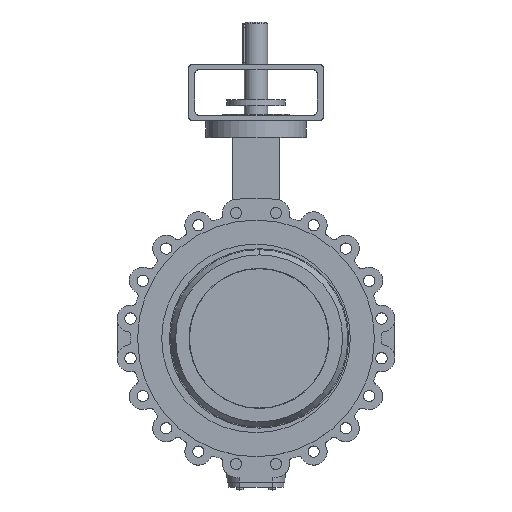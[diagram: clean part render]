
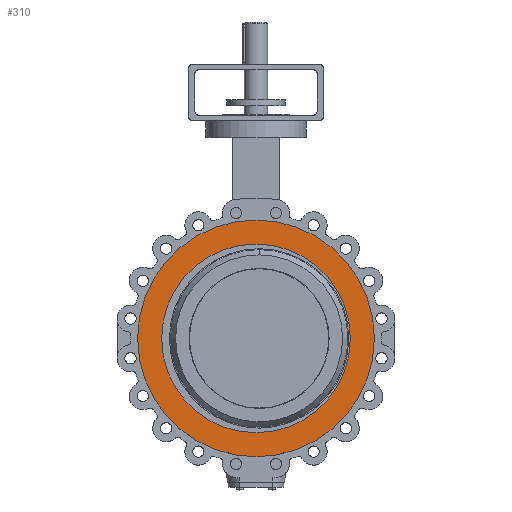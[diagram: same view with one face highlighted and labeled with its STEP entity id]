
A CAD part, top view. The second image highlights one B-rep face of the part: STEP entity #310.
In plain terms, the highlighted planar face has unit normal (0, 0, 1).
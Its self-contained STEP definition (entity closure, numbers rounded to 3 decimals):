
#310 = ADVANCED_FACE( '', ( #921, #922 ), #923, .T. );
#921 = FACE_BOUND( '', #1673, .T. );
#922 = FACE_OUTER_BOUND( '', #1674, .T. );
#923 = PLANE( '', #1675 );
#1673 = EDGE_LOOP( '', ( #3739, #3740, #3741 ) );
#1674 = EDGE_LOOP( '', ( #3742, #3743 ) );
#1675 = AXIS2_PLACEMENT_3D( '', #3744, #3745, #3746 );
#3739 = ORIENTED_EDGE( '', *, *, #4714, .F. );
#3740 = ORIENTED_EDGE( '', *, *, #4713, .F. );
#3741 = ORIENTED_EDGE( '', *, *, #5336, .F. );
#3742 = ORIENTED_EDGE( '', *, *, #4720, .T. );
#3743 = ORIENTED_EDGE( '', *, *, #5334, .T. );
#3744 = CARTESIAN_POINT( '', ( 0., 276.25, 83.5 ) );
#3745 = DIRECTION( '', ( 0., 0., 1. ) );
#3746 = DIRECTION( '', ( 0., 1., 0. ) );
#4713 = EDGE_CURVE( '', #5614, #5617, #5618, .T. );
#4714 = EDGE_CURVE( '', #5617, #5619, #5620, .T. );
#4720 = EDGE_CURVE( '', #5625, #5629, #5631, .T. );
#5334 = EDGE_CURVE( '', #5629, #5625, #6655, .T. );
#5336 = EDGE_CURVE( '', #5619, #5614, #6657, .T. );
#5614 = VERTEX_POINT( '', #7118 );
#5617 = VERTEX_POINT( '', #7122 );
#5618 = CIRCLE( '', #7123, 245. );
#5619 = VERTEX_POINT( '', #7124 );
#5620 = CIRCLE( '', #7125, 245. );
#5625 = VERTEX_POINT( '', #7131 );
#5629 = VERTEX_POINT( '', #7136 );
#5631 = CIRCLE( '', #7139, 307.5 );
#6655 = CIRCLE( '', #9149, 307.5 );
#6657 = CIRCLE( '', #9151, 245. );
#7118 = CARTESIAN_POINT( '', ( 245., 0., 83.5 ) );
#7122 = CARTESIAN_POINT( '', ( 0., 245., 83.5 ) );
#7123 = AXIS2_PLACEMENT_3D( '', #9805, #9806, #9807 );
#7124 = CARTESIAN_POINT( '', ( -245., 0., 83.5 ) );
#7125 = AXIS2_PLACEMENT_3D( '', #9808, #9809, #9810 );
#7131 = CARTESIAN_POINT( '', ( 0., 307.5, 83.5 ) );
#7136 = CARTESIAN_POINT( '', ( 0., -307.5, 83.5 ) );
#7139 = AXIS2_PLACEMENT_3D( '', #9820, #9821, #9822 );
#9149 = AXIS2_PLACEMENT_3D( '', #10976, #10977, #10978 );
#9151 = AXIS2_PLACEMENT_3D( '', #10982, #10983, #10984 );
#9805 = CARTESIAN_POINT( '', ( 0., 0., 83.5 ) );
#9806 = DIRECTION( '', ( 0., 0., 1. ) );
#9807 = DIRECTION( '', ( 0., 1., 0. ) );
#9808 = CARTESIAN_POINT( '', ( 0., 0., 83.5 ) );
#9809 = DIRECTION( '', ( 0., 0., 1. ) );
#9810 = DIRECTION( '', ( 0., 1., 0. ) );
#9820 = CARTESIAN_POINT( '', ( 0., 0., 83.5 ) );
#9821 = DIRECTION( '', ( 0., 0., 1. ) );
#9822 = DIRECTION( '', ( 0., 1., 0. ) );
#10976 = CARTESIAN_POINT( '', ( 0., 0., 83.5 ) );
#10977 = DIRECTION( '', ( 0., 0., 1. ) );
#10978 = DIRECTION( '', ( 0., 1., 0. ) );
#10982 = CARTESIAN_POINT( '', ( 0., 0., 83.5 ) );
#10983 = DIRECTION( '', ( 0., 0., 1. ) );
#10984 = DIRECTION( '', ( 0., 1., 0. ) );
